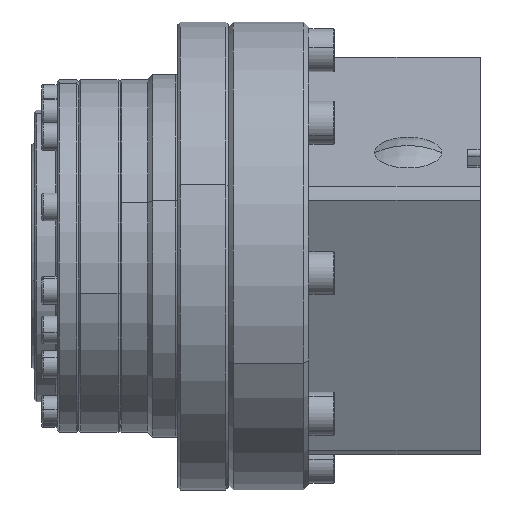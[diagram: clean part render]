
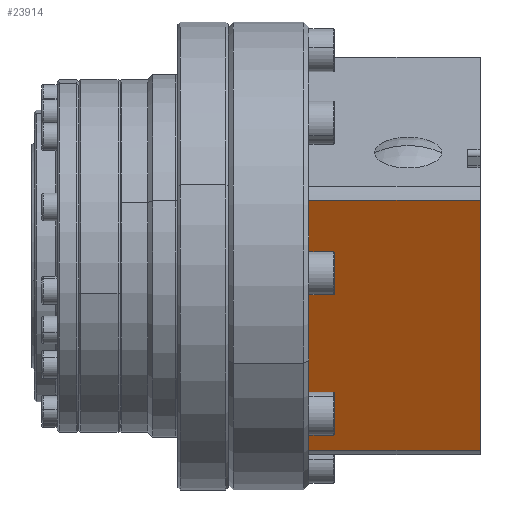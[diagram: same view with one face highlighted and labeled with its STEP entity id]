
A CAD part, top view. The second image highlights one B-rep face of the part: STEP entity #23914.
In plain terms, the highlighted planar face has unit normal (0, -0.46, 0.888) as drawn and (0, 0, 1) by its records, which use the part's own axes.
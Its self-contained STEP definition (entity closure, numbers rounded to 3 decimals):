
#1249 = VERTEX_POINT ( 'NONE', #35907 ) ;
#1251 = DIRECTION ( 'NONE',  ( 0., 1., 0. ) ) ;
#2110 = VERTEX_POINT ( 'NONE', #10900 ) ;
#3243 = CARTESIAN_POINT ( 'NONE',  ( 16., -27.946, 30. ) ) ;
#5762 = CARTESIAN_POINT ( 'NONE',  ( 50., 41., 30. ) ) ;
#6748 = LINE ( 'NONE', #22630, #35971 ) ;
#7696 = LINE ( 'NONE', #48227, #17689 ) ;
#8082 = ORIENTED_EDGE ( 'NONE', *, *, #30713, .T. ) ;
#10900 = CARTESIAN_POINT ( 'NONE',  ( 16., 27.946, 30. ) ) ;
#12910 = LINE ( 'NONE', #28278, #40404 ) ;
#17689 = VECTOR ( 'NONE', #43717, 1000. ) ;
#18514 = VERTEX_POINT ( 'NONE', #44620 ) ;
#19992 = CARTESIAN_POINT ( 'NONE',  ( -116.837, -30., 30. ) ) ;
#20054 = EDGE_LOOP ( 'NONE', ( #44137, #32605, #26167, #8082 ) ) ;
#22630 = CARTESIAN_POINT ( 'NONE',  ( 0., -27.946, 30. ) ) ;
#23914 = ADVANCED_FACE ( 'NONE', ( #47844 ), #47312, .T. ) ;
#24688 = EDGE_CURVE ( 'NONE', #25097, #1249, #6748, .T. ) ;
#25097 = VERTEX_POINT ( 'NONE', #3243 ) ;
#26167 = ORIENTED_EDGE ( 'NONE', *, *, #24688, .T. ) ;
#26894 = DIRECTION ( 'NONE',  ( 1., 0., 0. ) ) ;
#27944 = EDGE_CURVE ( 'NONE', #18514, #2110, #7696, .T. ) ;
#28278 = CARTESIAN_POINT ( 'NONE',  ( 16., -30., 30. ) ) ;
#30713 = EDGE_CURVE ( 'NONE', #1249, #18514, #37253, .T. ) ;
#32605 = ORIENTED_EDGE ( 'NONE', *, *, #33189, .T. ) ;
#33189 = EDGE_CURVE ( 'NONE', #2110, #25097, #12910, .T. ) ;
#35907 = CARTESIAN_POINT ( 'NONE',  ( 50., -27.946, 30. ) ) ;
#35971 = VECTOR ( 'NONE', #47008, 1000. ) ;
#37253 = LINE ( 'NONE', #5762, #37774 ) ;
#37774 = VECTOR ( 'NONE', #1251, 1000. ) ;
#39873 = DIRECTION ( 'NONE',  ( 0., 0., 1. ) ) ;
#40404 = VECTOR ( 'NONE', #45251, 1000. ) ;
#42071 = AXIS2_PLACEMENT_3D ( 'NONE', #19992, #39873, #26894 ) ;
#43717 = DIRECTION ( 'NONE',  ( -1., 0., 0. ) ) ;
#44137 = ORIENTED_EDGE ( 'NONE', *, *, #27944, .T. ) ;
#44620 = CARTESIAN_POINT ( 'NONE',  ( 50., 27.946, 30. ) ) ;
#45251 = DIRECTION ( 'NONE',  ( 0., -1., 0. ) ) ;
#47008 = DIRECTION ( 'NONE',  ( 1., 0., 0. ) ) ;
#47312 = PLANE ( 'NONE',  #42071 ) ;
#47844 = FACE_OUTER_BOUND ( 'NONE', #20054, .T. ) ;
#48227 = CARTESIAN_POINT ( 'NONE',  ( 0., 27.946, 30. ) ) ;
